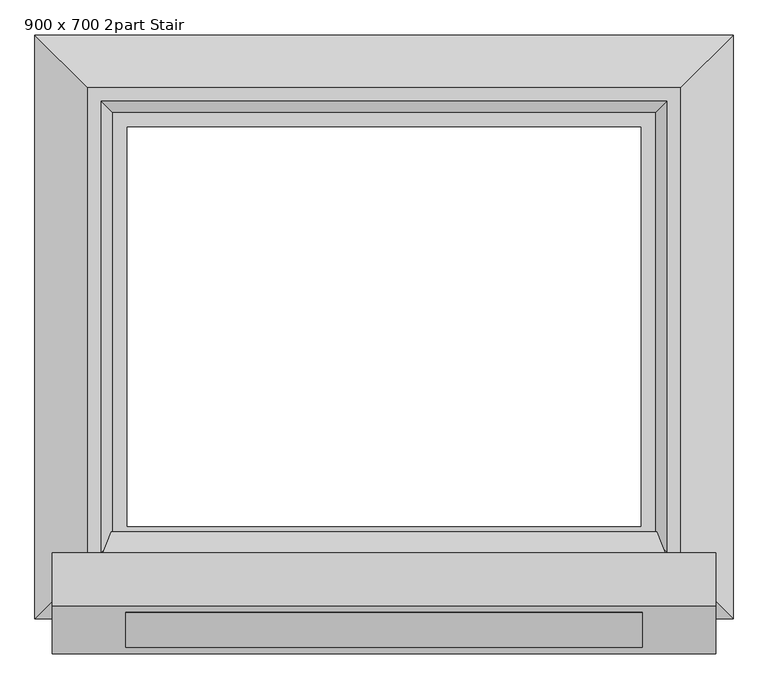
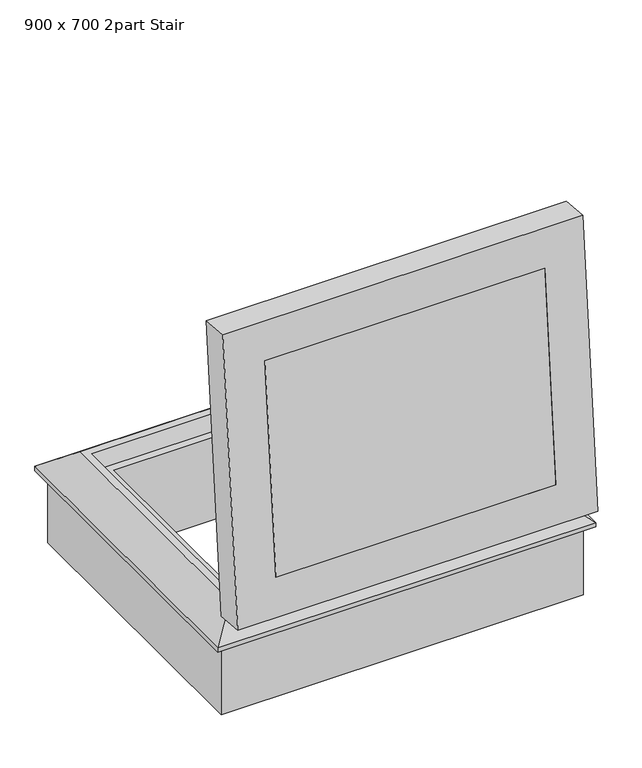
"""IFC4 building model written with IfcOpenShell, lengths in millimetres: proxy geometry, 1_Topaccess_dakluik_900x700_Staka : 900 x 700 2part Stair."""

from ifc_helpers import new_model, si_unit, point, frame, frame_2d, origin, place, context, project, spatial, polyline, circle_curve, trimmed, segment, composite_curve, outline, extrude, faceted_brep, source, transform, mapped, element, save


def proxy_900_x_700_2part_stair_44e53f71(model_context):
    return source(origin(), model_context, "Body", "SolidModel", [
        extrude(outline(composite_curve([segment(polyline([(-354.3587615, 273.7553144), (-365.8649084, 288.1379982)]), True, "CONTINUOUS"), segment(trimmed(circle_curve(frame_2d((-360.5095045, 292.4223213)), 6.8582634), [point((-365.8649084, 288.1379982))], [point((-367.181926, 294.0080602))], False, "CARTESIAN"), True, "CONTINUOUS"), segment(polyline([(-367.181926, 294.0080602), (-349.9226192, 336.7263436)]), True, "CONTINUOUS"), segment(trimmed(circle_curve(frame_2d((-346.8978032, 335.5042386)), 3.2623692), [point((-349.9226192, 336.7263436))], [point((-344.376303, 333.4341928))], False, "CARTESIAN"), True, "CONTINUOUS"), segment(trimmed(circle_curve(frame_2d((-340.2194123, 331.6704159)), 4.5156006), [point((-344.376303, 333.4341928))], [point((-341.7830923, 327.4341966))], True, "CARTESIAN"), True, "CONTINUOUS"), segment(polyline([(-341.7830923, 327.4341966), (-304.4744431, 313.6627691), (-354.3587615, 273.7553144)]), True, "CONTINUOUS")], self_intersect=False)), frame((-1031.2697623, 0.0, 0.0), z_axis=(1.0, 0.0, 0.0), x_axis=(0.0, 1.0, 0.0)), (0.0, 0.0, 1.0), 33.7628423),
        extrude(outline(composite_curve([segment(polyline([(-354.3587615, 273.7553144), (-365.8649084, 288.1379982)]), True, "CONTINUOUS"), segment(trimmed(circle_curve(frame_2d((-360.5095045, 292.4223213)), 6.8582634), [point((-365.8649084, 288.1379982))], [point((-367.181926, 294.0080602))], False, "CARTESIAN"), True, "CONTINUOUS"), segment(polyline([(-367.181926, 294.0080602), (-349.9226192, 336.7263436)]), True, "CONTINUOUS"), segment(trimmed(circle_curve(frame_2d((-346.8978032, 335.5042386)), 3.2623692), [point((-349.9226192, 336.7263436))], [point((-344.376303, 333.4341928))], False, "CARTESIAN"), True, "CONTINUOUS"), segment(trimmed(circle_curve(frame_2d((-340.2194123, 331.6704159)), 4.5156006), [point((-344.376303, 333.4341928))], [point((-341.7830923, 327.4341966))], True, "CARTESIAN"), True, "CONTINUOUS"), segment(polyline([(-341.7830923, 327.4341966), (-304.4744431, 313.6627691), (-354.3587615, 273.7553144)]), True, "CONTINUOUS")], self_intersect=False)), frame((-162.9219079, 0.0, 0.0), z_axis=(1.0, 0.0, 0.0), x_axis=(0.0, 1.0, 0.0)), (0.0, 0.0, 1.0), 31.6521456),
        faceted_brep([(-61.2697623, 553.4470955, 328.0), (30.7302377, 645.4470955, 254.4), (-1193.2697623, 645.4470955, 254.4), (-1101.2697623, 553.4470955, 328.0), (-105.2697623, 509.4470955, 282.0), (-85.7439208, 528.9729371, 328.0), (-1076.7956039, 528.9729371, 328.0), (-1057.2697623, 509.4470955, 282.0), (-131.2697623, 483.4470955, 0.0), (-131.2697623, 483.4470955, 282.0), (-1031.2697623, 483.4470955, 282.0), (-1031.2697623, 483.4470955, 0.0), (4.7302377, 619.4470955, 240.0), (4.7302377, 619.4470955, 0.0), (-1167.2697623, 619.4470955, 0.0), (-1167.2697623, 619.4470955, 240.0), (30.7302377, 645.4470955, 240.0), (-1193.2697623, 645.4470955, 240.0), (-1193.2697623, -378.5529045, 254.4), (-1101.2697623, -286.5529045, 328.0), (-1076.7956039, -262.078746, 328.0), (-1057.2697623, -242.5529045, 282.0), (-1031.2697623, -216.5529045, 282.0), (-1031.2697623, -216.5529045, 0.0), (-1167.2697623, -352.5529045, 0.0), (-1167.2697623, -352.5529045, 240.0), (-1193.2697623, -378.5529045, 240.0), (30.7302377, -378.5529045, 254.4), (-61.2697623, -286.5529045, 328.0), (-85.7439208, -262.078746, 328.0), (-105.2697623, -242.5529045, 282.0), (-131.2697623, -216.5529045, 282.0), (-131.2697623, -216.5529045, 0.0), (4.7302377, -352.5529045, 0.0), (4.7302377, -352.5529045, 240.0), (30.7302377, -378.5529045, 240.0)], [[[0, 1, 2, 3]], [[4, 5, 6, 7]], [[8, 9, 10, 11]], [[12, 13, 14, 15]], [[1, 16, 17, 2]], [[3, 2, 18, 19]], [[7, 6, 20, 21]], [[11, 10, 22, 23]], [[15, 14, 24, 25]], [[2, 17, 26, 18]], [[19, 18, 27, 28]], [[21, 20, 29, 30]], [[23, 22, 31, 32]], [[25, 24, 33, 34]], [[18, 26, 35, 27]], [[28, 27, 1, 0]], [[3, 19, 28, 0], [5, 29, 20, 6]], [[30, 29, 5, 4]], [[7, 21, 30, 4], [9, 31, 22, 10]], [[32, 31, 9, 8]], [[13, 33, 24, 14], [11, 23, 32, 8]], [[34, 33, 13, 12]], [[16, 35, 26, 17], [15, 25, 34, 12]], [[27, 35, 16, 1]]]),
        extrude(outline(polyline([(0.0, -906.0), (0.0, 0.0), (139.4, 0.0), (139.4, -906.0), (0.0, -906.0)])), frame((-1034.2669339, -428.8183427, 470.0146001), z_axis=(0.0, 0.08715574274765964, 0.9961946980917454), x_axis=(0.0, 0.9961946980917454, -0.08715574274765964)), (0.0, 0.0, 1.0), 706.0),
        faceted_brep([(-128.2669339, -228.4168474, 1161.1785464), (-128.2669339, -367.2863883, 1173.328057), (-1034.2669339, -367.2863883, 1173.328057), (-1034.2669339, -228.4168474, 1161.1785464), (-85.2669339, -270.8925845, 1208.0589449), (-102.8669339, -226.2030916, 1186.4818918), (-1059.6669339, -226.2030916, 1186.4818918), (-1077.2669339, -270.8925845, 1208.0589449), (0.7330661, -356.0432975, 1301.837173), (0.7330661, -263.3971906, 1293.731689), (-1163.2669339, -263.3971906, 1293.731689), (-1163.2669339, -356.0432975, 1301.837173), (-1034.2669339, -428.8183427, 470.0146001), (-1034.2669339, -289.9488018, 457.8650896), (-1059.6669339, -292.1625577, 432.5617443), (-1077.2669339, -339.9199327, 419.072744), (-1163.2669339, -347.4153266, 333.4), (-1163.2669339, -440.0614335, 341.5054841), (-128.2669339, -428.8183427, 470.0146001), (-128.2669339, -289.9488018, 457.8650896), (-102.8669339, -292.1625577, 432.5617443), (-85.2669339, -339.9199327, 419.072744), (0.7330661, -347.4153266, 333.4), (0.7330661, -440.0614335, 341.5054841)], [[[0, 1, 2, 3]], [[4, 5, 6, 7]], [[8, 9, 10, 11]], [[3, 2, 12, 13]], [[7, 6, 14, 15]], [[11, 10, 16, 17]], [[13, 12, 18, 19]], [[15, 14, 20, 21]], [[17, 16, 22, 23]], [[19, 18, 1, 0]], [[5, 20, 14, 6], [3, 13, 19, 0]], [[21, 20, 5, 4]], [[9, 22, 16, 10], [7, 15, 21, 4]], [[23, 22, 9, 8]], [[11, 17, 23, 8], [1, 18, 12, 2]]]),
    ])


if __name__ == "__main__":
    model = new_model("IFC4")
    model_context = context("Model", 3, world=origin())
    ifc_project = project(units=[si_unit("LENGTHUNIT", "METRE", prefix="MILLI")], contexts=[model_context])
    site = spatial("IfcSite", under=ifc_project)
    building = spatial("IfcBuilding", under=site)
    placement = place(None, origin())
    proxy_900_x_700_2part_stair_shape = proxy_900_x_700_2part_stair_44e53f71(model_context)
    element("IfcBuildingElementProxy", 1, Name="1_Topaccess_dakluik_900x700_Staka : 900 x 700 2part Stair", ObjectType="1_Topaccess_dakluik_900x700_Staka : 900 x 700 2part Stair", at=placement, inside=building, context=model_context, shape_type="MappedRepresentation", body=[
        mapped(proxy_900_x_700_2part_stair_shape, transform((0.0, 0.0, 0.0), x_axis=(1.0, 0.0, 0.0), y_axis=(0.0, 1.0, 0.0), z_axis=(0.0, 0.0, 1.0))),
    ])
    save(model, "model.ifc")
